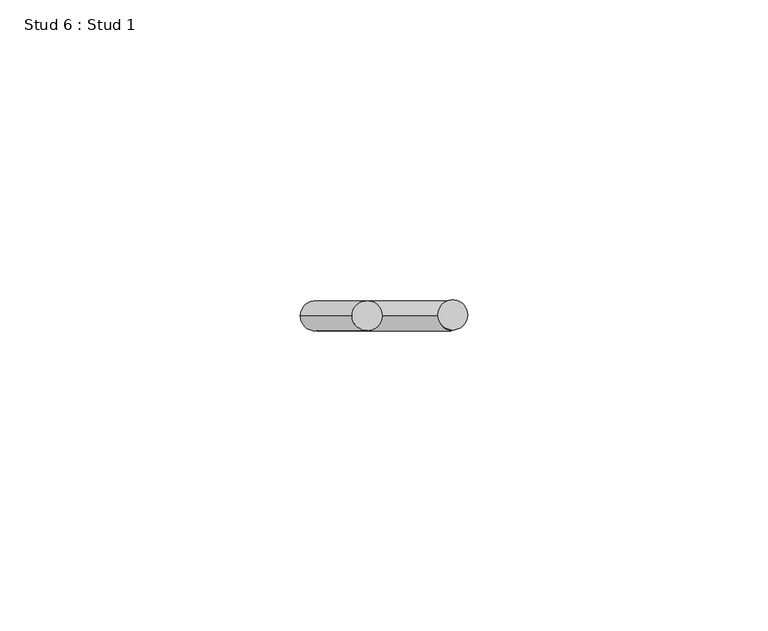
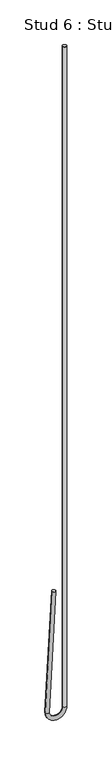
"""IFC4 building model written with IfcOpenShell, lengths in millimetres: proxy geometry, Stud 6 : Stud 1."""

import ifcopenshell
import ifcopenshell.guid

model = None  # the IFC model being written
_history = None  # IfcOwnerHistory: only IFC2X3 demands one
_inside = {}  # id of a spatial element -> (the spatial element, [elements in it])
_under = {}  # id of a project, library or spatial element -> (it, [spatial elements below it])
_declared = {}  # id of a project -> (the project, [libraries it declares])
_typed = {}  # id of a type object -> (the type object, [elements of that type])
_made_of = {}  # id of a material, layer set ... -> (it, [elements and type objects made of it])


def new_model(schema):
    """Start an empty IFC model of exactly this schema.

    Asked for "IFC4X3", IfcOpenShell would pick the latest addendum, in which some entities
    have other attributes; the version numbers below select the first issue.
    IFC2X3 requires an IfcOwnerHistory on every rooted entity: one is made here for all.
    """
    global model, _history
    if schema == "IFC4X3":
        model = ifcopenshell.file(schema_version=(4, 3, 0, 0))
    else:
        model = ifcopenshell.file(schema=schema)
    _inside.clear()
    _under.clear()
    _declared.clear()
    _typed.clear()
    _made_of.clear()
    _history = None
    if model.schema == "IFC2X3":
        org = make("IfcOrganization", Name="unknown")
        user = make(
            "IfcPersonAndOrganization",
            ThePerson=make("IfcPerson", FamilyName="unknown"),
            TheOrganization=org,
        )
        app = make(
            "IfcApplication",
            ApplicationDeveloper=org,
            Version="unknown",
            ApplicationFullName="unknown",
            ApplicationIdentifier="unknown",
        )
        _history = make(
            "IfcOwnerHistory",
            OwningUser=user,
            OwningApplication=app,
            ChangeAction="ADDED",
            CreationDate=0,
        )
    return model


def make(cls, **values):
    """One entity of the class cls with the attributes given. An attribute that is None is left unset."""
    return model.create_entity(
        cls, **{name: value for name, value in values.items() if value is not None}
    )


def rooted(cls, **values):
    """An entity with a GlobalId (a new one), such as an element, a storey or a relation."""
    return make(cls, GlobalId=ifcopenshell.guid.new(), OwnerHistory=_history, **values)


def si_unit(unit_type, name, prefix=None):
    """IfcSIUnit, for example si_unit("LENGTHUNIT", "METRE", prefix="MILLI")."""
    return make("IfcSIUnit", UnitType=unit_type, Prefix=prefix, Name=name)


def assignment(units):
    """IfcUnitAssignment: the units of a project."""
    return None if units is None else make("IfcUnitAssignment", Units=units)


def point(xyz):
    """IfcCartesianPoint."""
    return None if xyz is None else make("IfcCartesianPoint", Coordinates=xyz)


def direction(xyz):
    """IfcDirection."""
    return None if xyz is None else make("IfcDirection", DirectionRatios=xyz)


def frame(location, z_axis=None, x_axis=None):
    """IfcAxis2Placement3D, a coordinate frame: its origin and axes. An axis left out is left unset."""
    return make(
        "IfcAxis2Placement3D",
        Location=point(location),
        Axis=direction(z_axis),
        RefDirection=direction(x_axis),
    )


def origin():
    """The frame at (0, 0, 0) with its axes left unset."""
    return frame((0.0, 0.0, 0.0))


def place(relative_to, where):
    """IfcLocalPlacement: puts the frame where relative to a parent placement (None: the world)."""
    return make(
        "IfcLocalPlacement", PlacementRelTo=relative_to, RelativePlacement=where
    )


def context(
    kind, dimensions, precision=None, world=None, true_north=None, identifier=None
):
    """IfcGeometricRepresentationContext, for example the 3D "Model" context."""
    return make(
        "IfcGeometricRepresentationContext",
        ContextIdentifier=identifier,
        ContextType=kind,
        CoordinateSpaceDimension=dimensions,
        Precision=precision,
        WorldCoordinateSystem=world,
        TrueNorth=true_north,
    )


def project(units=None, contexts=None):
    """IfcProject with its units and contexts."""
    return rooted(
        "IfcProject",
        Name="project",
        RepresentationContexts=contexts,
        UnitsInContext=assignment(units),
    )


def spatial(cls, under=None, at=None, **own):
    """A site, building, storey or space (cls), placed at a placement, below another one or the project."""
    s = rooted(cls, ObjectPlacement=at, **own)
    if under is not None:
        _under.setdefault(under.id(), (under, []))[1].append(s)
    return s


def circle_curve(where, radius):
    """IfcCircle in the frame where."""
    return make("IfcCircle", Position=where, Radius=radius)


def ellipse_curve(where, semi_axis1, semi_axis2):
    """IfcEllipse in the frame where."""
    return make(
        "IfcEllipse", Position=where, SemiAxis1=semi_axis1, SemiAxis2=semi_axis2
    )


def trimmed(basis, trim1, trim2, sense, master):
    """IfcTrimmedCurve: the piece of a basis curve between two trims."""
    return make(
        "IfcTrimmedCurve",
        BasisCurve=basis,
        Trim1=trim1,
        Trim2=trim2,
        SenseAgreement=sense,
        MasterRepresentation=master,
    )


def shape(context_of_items, identifier, shape_type, items):
    """IfcShapeRepresentation: the items that make up one representation, for example the "Body"."""
    return make(
        "IfcShapeRepresentation",
        ContextOfItems=context_of_items,
        RepresentationIdentifier=identifier,
        RepresentationType=shape_type,
        Items=items,
    )


def source(mapping_origin, context_of_items, identifier, shape_type, items):
    """IfcRepresentationMap: a shape defined once, which mapped items show again and again."""
    return make(
        "IfcRepresentationMap",
        MappingOrigin=mapping_origin,
        MappedRepresentation=shape(context_of_items, identifier, shape_type, items),
    )


def transform(
    local_origin,
    x_axis=None,
    y_axis=None,
    z_axis=None,
    scale=None,
    scale2=None,
    scale3=None,
    uniform=True,
):
    """IfcCartesianTransformationOperator3D, or its non-uniform kind. x_axis, y_axis, z_axis: its Axis1, 2, 3."""
    if uniform:
        return make(
            "IfcCartesianTransformationOperator3D",
            Axis1=direction(x_axis),
            Axis2=direction(y_axis),
            LocalOrigin=point(local_origin),
            Scale=scale,
            Axis3=direction(z_axis),
        )
    return make(
        "IfcCartesianTransformationOperator3DnonUniform",
        Axis1=direction(x_axis),
        Axis2=direction(y_axis),
        LocalOrigin=point(local_origin),
        Scale=scale,
        Axis3=direction(z_axis),
        Scale2=scale2,
        Scale3=scale3,
    )


def mapped(mapping_source, mapping_target):
    """IfcMappedItem: shows the shape of a source again, moved by a transform."""
    return make(
        "IfcMappedItem", MappingSource=mapping_source, MappingTarget=mapping_target
    )


def made_of(thing, what):
    """Note that an element or type object is made of a material, layer set ...; save() writes the relation."""
    if what is not None:
        _made_of.setdefault(what.id(), (what, []))[1].append(thing)
    return thing


def element(
    cls,
    number,
    at=None,
    inside=None,
    cuts=None,
    type_object=None,
    material=None,
    context=None,
    identifier="Body",
    shape_type=None,
    held_by="IfcProductDefinitionShape",
    body=None,
    shapes=None,
    **own,
):
    """One element of the class cls, such as IfcWall. Its Tag is "e" and its number.

    at: its placement. inside: the storey or other place that contains it. cuts: it is an
    opening in that element (IfcRelVoidsElement). A single representation is given by context,
    identifier, shape_type and body (its items); several are given by shapes. held_by: the class
    of the entity that holds the representations. save() writes the other relations.
    """
    e = rooted(cls, Tag="e%d" % number, ObjectPlacement=at, **own)
    if body is not None:
        shapes = [shape(context, identifier, shape_type, body)]
    if shapes is not None:
        e.Representation = make(held_by, Representations=shapes)
    if inside is not None:
        _inside.setdefault(inside.id(), (inside, []))[1].append(e)
    if cuts is not None:
        rooted(
            "IfcRelVoidsElement", RelatingBuildingElement=cuts, RelatedOpeningElement=e
        )
    if type_object is not None:
        _typed.setdefault(type_object.id(), (type_object, []))[1].append(e)
    return made_of(e, material)


def aggregate(whole, parts):
    """IfcRelAggregates: a whole, such as a stair, and the parts it consists of."""
    return rooted("IfcRelAggregates", RelatingObject=whole, RelatedObjects=parts)


def save(model, path):
    """Write the relations noted so far, then the file.

    IfcRelAggregates (storeys below a building ...), IfcRelContainedInSpatialStructure (elements
    in a storey), IfcRelDefinesByType, IfcRelAssociatesMaterial and IfcRelDeclares: one each for
    every whole, place, type object, material and project.
    """
    for whole, parts in _under.values():
        aggregate(whole, parts)
    for where, things in _inside.values():
        rooted(
            "IfcRelContainedInSpatialStructure",
            RelatedElements=things,
            RelatingStructure=where,
        )
    for kind, things in _typed.values():
        rooted("IfcRelDefinesByType", RelatedObjects=things, RelatingType=kind)
    for what, things in _made_of.values():
        rooted("IfcRelAssociatesMaterial", RelatedObjects=things, RelatingMaterial=what)
    for by, libraries in _declared.values():
        rooted("IfcRelDeclares", RelatingContext=by, RelatedDefinitions=libraries)
    model.write(path)


def plane_surface(at):
    """IfcPlane: the flat surface through the origin of the frame at, square to its z axis."""
    return make("IfcPlane", Position=at)


def cylinder_surface(at, radius):
    """IfcCylindricalSurface: all points at the distance radius from the z axis of the frame at."""
    return make("IfcCylindricalSurface", Position=at, Radius=radius)


def revolved_surface(curve, axis_point, axis_direction):
    """IfcSurfaceOfRevolution: the curve turned about the line through axis_point along axis_direction."""
    return make(
        "IfcSurfaceOfRevolution",
        SweptCurve=make("IfcArbitraryOpenProfileDef", ProfileType="CURVE", Curve=curve),
        AxisPosition=make("IfcAxis1Placement", Location=point(axis_point), Axis=direction(axis_direction)),
    )


def advanced_brep(points, edges, surfaces, faces):
    """IfcAdvancedBrep: a solid bounded by faces that lie on surfaces and meet in shared edges.

    An edge is (start, end): straight between two places in points (the first is 0);
    or (start, end, curve); or (start, end, curve, False) where it runs against its curve.
    A face is (place in surfaces, loops), or (place, loops, False) where it looks against
    its surface's normal. A loop lists edges by number (the first is 1), with a minus sign
    where the edge is run from its end to its start. The first loop is the outer one.
    """
    corners = [point(p) for p in points]
    vertices = [make("IfcVertexPoint", VertexGeometry=c) for c in corners]
    made = []
    for start, end, *more in edges:
        made.append(
            make(
                "IfcEdgeCurve",
                EdgeStart=vertices[start],
                EdgeEnd=vertices[end],
                EdgeGeometry=more[0] if more else make("IfcPolyline", Points=[corners[start], corners[end]]),
                SameSense=more[1] if len(more) > 1 else True,
            )
        )
    hull = []
    for where, loops, *sense in faces:
        bounds = []
        for j, loop in enumerate(loops):
            ring = [make("IfcOrientedEdge", EdgeElement=made[abs(k) - 1], Orientation=k > 0) for k in loop]
            bounds.append(
                make(
                    "IfcFaceOuterBound" if j == 0 else "IfcFaceBound",
                    Bound=make("IfcEdgeLoop", EdgeList=ring),
                    Orientation=True,
                )
            )
        hull.append(make("IfcAdvancedFace", Bounds=bounds, FaceSurface=surfaces[where], SameSense=sense[0] if sense else True))
    return make("IfcAdvancedBrep", Outer=make("IfcClosedShell", CfsFaces=hull))


def stud_6_stud_1_164642b2(model_context):
    return source(origin(), model_context, "Body", "AdvancedBrep", [
        advanced_brep(
        [(-10978.2326538, 8353.5191481, 3640.800192), (-10973.2395061, 8353.5191481, 3640.5385122), (-10986.8733201, 8353.5191481, 3475.9264558), (-10981.8801725, 8353.5191481, 3475.664776), (-10963.9714562, 8353.5191481, 3475.7956159), (-10958.9714562, 8353.5191481, 3475.7956159), (-10958.9714562, 8353.5191481, 4390.1956159), (-10963.9714562, 8353.5191481, 4390.1956159)],
        [
            (0, 1, circle_curve(frame((-10975.7360799, 8353.5191481, 3640.6693521), z_axis=(0.05233595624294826, 0.0, 0.9986295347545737), x_axis=(0.9986295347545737, 0.0, -0.05233595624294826)), 2.5)),
            (1, 0, circle_curve(frame((-10975.7360799, 8353.5191481, 3640.6693521), z_axis=(0.05233595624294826, 0.0, 0.9986295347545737), x_axis=(0.9986295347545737, 0.0, -0.05233595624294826)), 2.5)),
            (0, 2),
            (2, 3, circle_curve(frame((-10984.3767463, 8353.5191481, 3475.7956159), z_axis=(0.05233595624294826, 0.0, 0.9986295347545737), x_axis=(0.9986295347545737, 0.0, -0.05233595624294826)), 2.5)),
            (3, 1),
            (3, 2, circle_curve(frame((-10984.3767463, 8353.5191481, 3475.7956159), z_axis=(0.05233595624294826, 0.0, 0.9986295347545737), x_axis=(0.9986295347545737, 0.0, -0.05233595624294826)), 2.5)),
            (4, 3, circle_curve(frame((-10972.9241013, 8353.5191481, 3475.7956159), z_axis=(0.0, 1.0, 0.0), x_axis=(-1.0, 0.0, 0.0)), 8.952645)),
            (2, 5, circle_curve(frame((-10972.9241013, 8353.5191481, 3475.7956159), z_axis=(0.0, -1.0, 0.0), x_axis=(-1.0, 0.0, 0.0)), 13.952645)),
            (5, 4, circle_curve(frame((-10961.4714562, 8353.5191481, 3475.7956159), z_axis=(0.0, 0.0, -1.0), x_axis=(-1.0, 0.0, 0.0)), 2.5)),
            (4, 5, circle_curve(frame((-10961.4714562, 8353.5191481, 3475.7956159), z_axis=(0.0, 0.0, -1.0), x_axis=(-1.0, 0.0, 0.0)), 2.5)),
            (6, 7, circle_curve(frame((-10961.4714562, 8353.5191481, 4390.1956159), z_axis=(0.0, 0.0, 1.0), x_axis=(-1.0, 0.0, 0.0)), 2.5)),
            (7, 6, circle_curve(frame((-10961.4714562, 8353.5191481, 4390.1956159), z_axis=(0.0, 0.0, 1.0), x_axis=(-1.0, 0.0, 0.0)), 2.5)),
            (5, 6),
            (7, 4),
        ],
        [
            plane_surface(frame((-10975.7360799, 8947.2441481, 3640.6693521), z_axis=(0.05233595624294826, 0.0, 0.9986295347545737), x_axis=(0.0, -1.0, 0.0))),
            cylinder_surface(frame((-10975.7360799, 8353.5191481, 3640.6693521), z_axis=(0.05233595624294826, 0.0, 0.9986295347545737), x_axis=(0.9986295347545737, 0.0, -0.05233595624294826)), 2.5),
            revolved_surface(trimmed(ellipse_curve(frame((-10984.3767463, 8353.5191481, 3475.7956159), z_axis=(0.0, 0.0, 1.0), x_axis=(1.0, 0.0, 0.0)), 2.5, 2.5), [point((-10986.8767463, 8353.5191481, 3475.7956159))], [point((-10981.8767463, 8353.5191481, 3475.7956159))], True, "CARTESIAN"), (-10972.9241013, 8947.2441481, 3475.7956159), (0.0, -1.0, 0.0)),
            revolved_surface(trimmed(ellipse_curve(frame((-10984.3767463, 8353.5191481, 3475.7956159), z_axis=(0.0, 0.0, 1.0), x_axis=(1.0, 0.0, 0.0)), 2.5, 2.5), [point((-10981.8767463, 8353.5191481, 3475.7956159))], [point((-10986.8767463, 8353.5191481, 3475.7956159))], True, "CARTESIAN"), (-10972.9241013, 8947.2441481, 3475.7956159), (0.0, -1.0, 0.0)),
            plane_surface(frame((-10961.4714562, 8947.2441481, 4390.1956159), z_axis=(0.0, 0.0, 1.0), x_axis=(0.0, -1.0, 0.0))),
            cylinder_surface(frame((-10961.4714562, 8353.5191481, 3475.7956159), z_axis=(0.0, 0.0, -1.0), x_axis=(-1.0, 0.0, 0.0)), 2.5),
        ],
        [
            (0, [[1, 2]]),
            (1, [[-1, 3, 4, 5]]),
            (1, [[-2, -5, 6, -3]]),
            (2, [[7, -4, 8, 9]]),
            (3, [[-8, -6, -7, 10]]),
            (4, [[11, 12]]),
            (5, [[-9, 13, -12, 14]]),
            (5, [[-10, -14, -11, -13]]),
        ],
    ),
    ])


if __name__ == "__main__":
    model = new_model("IFC4")
    model_context = context("Model", 3, world=origin())
    ifc_project = project(units=[si_unit("LENGTHUNIT", "METRE", prefix="MILLI")], contexts=[model_context])
    site = spatial("IfcSite", under=ifc_project)
    building = spatial("IfcBuilding", under=site)
    placement = place(None, origin())
    stud_6_stud_1_shape = stud_6_stud_1_164642b2(model_context)
    element("IfcBuildingElementProxy", 1, Name="Stud 6 : Stud 1", ObjectType="Stud 6 : Stud 1", at=placement, inside=building, context=model_context, shape_type="MappedRepresentation", body=[
        mapped(stud_6_stud_1_shape, transform((0.0, 0.0, 0.0), x_axis=(1.0, 0.0, 0.0), y_axis=(0.0, 1.0, 0.0), z_axis=(0.0, 0.0, 1.0))),
    ])
    save(model, "model.ifc")
